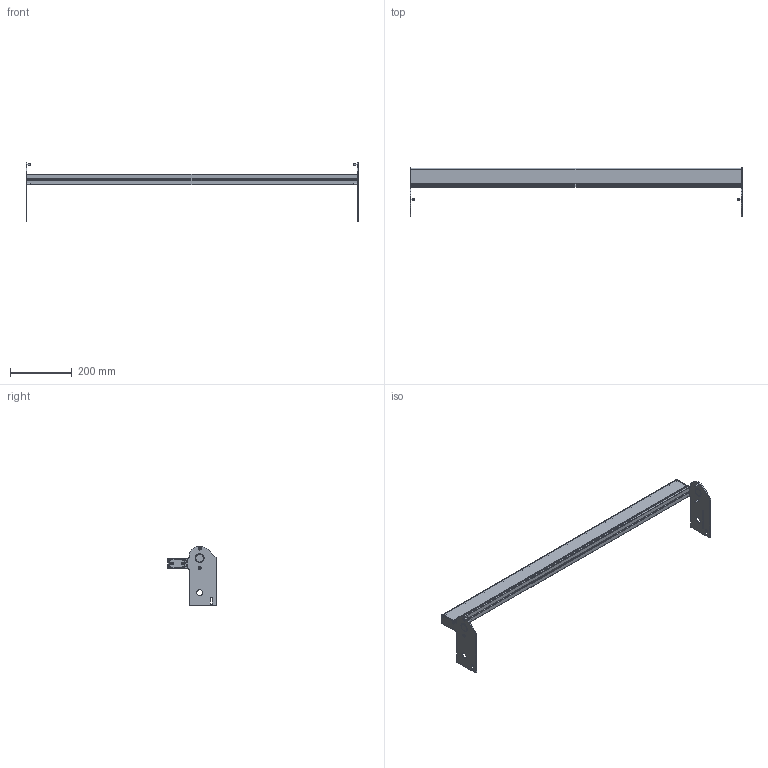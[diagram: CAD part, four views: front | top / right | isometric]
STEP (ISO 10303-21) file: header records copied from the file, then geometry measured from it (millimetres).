
FILE_DESCRIPTION((''),'2;1');
FILE_NAME('350712-42_ASM','2023-03-22T',('jenni.wallner'),(''),'PRO/ENGINEER BY PARAMETRIC TECHNOLOGY CORPORATION, 2012420','PRO/ENGINEER BY PARAMETRIC TECHNOLOGY CORPORATION, 2012420','');
FILE_SCHEMA(('CONFIG_CONTROL_DESIGN'));
Length unit declared in the file: inch
Products named in the file (6): 350669-42; 350667; 350668; 930412M; 930516M; 350712-42_ASM
Assembly tree (11 placements, depth 2):
  350712-42_ASM
    350669-42
    350667
    350668
    930412M  x4
    930516M  x4
Bounding box: 1079.14 x 158.09 x 193.27 mm (x, y, z)
Volume: 958388.3 mm3; surface area: 621972.3 mm2
Topology: 11 solids, 11 shells, 334 faces, 872 edges, 568 vertices
Faces by surface type: plane 150, cylinder 136, cone 48
Entity records: 7773 total; most frequent: DIRECTION 1398, CARTESIAN_POINT 1317, ORIENTED_EDGE 1288, EDGE_CURVE 644, AXIS2_PLACEMENT_3D 505, VERTEX_POINT 424, VECTOR 388, LINE 388
